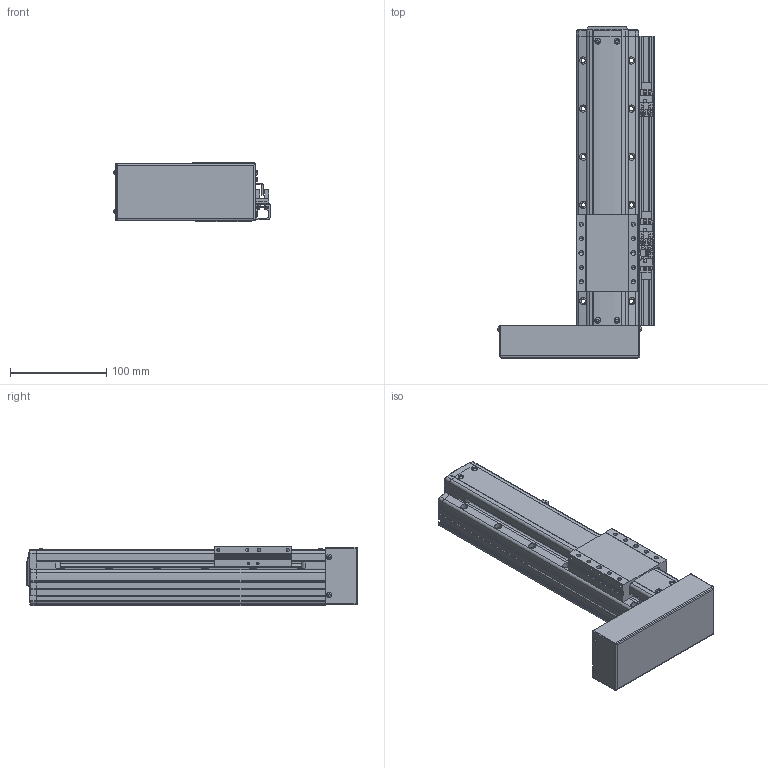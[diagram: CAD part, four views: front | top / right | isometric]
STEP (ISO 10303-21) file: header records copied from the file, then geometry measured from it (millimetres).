
FILE_DESCRIPTION(('STEP AP214'),'1');
FILE_NAME('Z:/Web/3D/PSA65/STP/PSA65-150 (3D)/PSA65ㅁㅁ-150PL+3SR.stp','2014-06-25T03:12:26',(' '),(' '),'Spatial InterOp 3D',' ',' ');
FILE_SCHEMA(('automotive_design'));
Length unit declared in the file: millimetre
Products named in the file (67): SLIDE; RRCV-PA060; 1; 2; 3; 4; 5; 6; 7; 8; 9; 10; 11; 12; 13; 14; 15; 16; 17; 18; 19; 20; 21; 22; 23; 24; 25; 26; 27; 28; 29; 30; 31; 스크루 : Round - M3.0 x 8.0; RN8 x 0.75; SHAFT-SAN65; BASE; 스크루 : Round - M3.0 x 6.0; BTCV-SAN65; BHCS M3 X 6L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
Bounding box: 162.06 x 344.8 x 62 mm (x, y, z)
Volume: 1288790.4 mm3; surface area: 226483 mm2
Topology: 67 solids, 67 shells, 2198 faces, 5787 edges, 3727 vertices
Faces by surface type: plane 1385, cylinder 547, cone 181, sphere 50, bspline 19, torus 16
Entity records: 87080 total; most frequent: CARTESIAN_POINT 13406, DIRECTION 11624, ORIENTED_EDGE 11358, EDGE_CURVE 5679, LINE 4054, VECTOR 4054, AXIS2_PLACEMENT_3D 3785, VERTEX_POINT 3727
